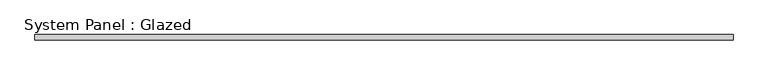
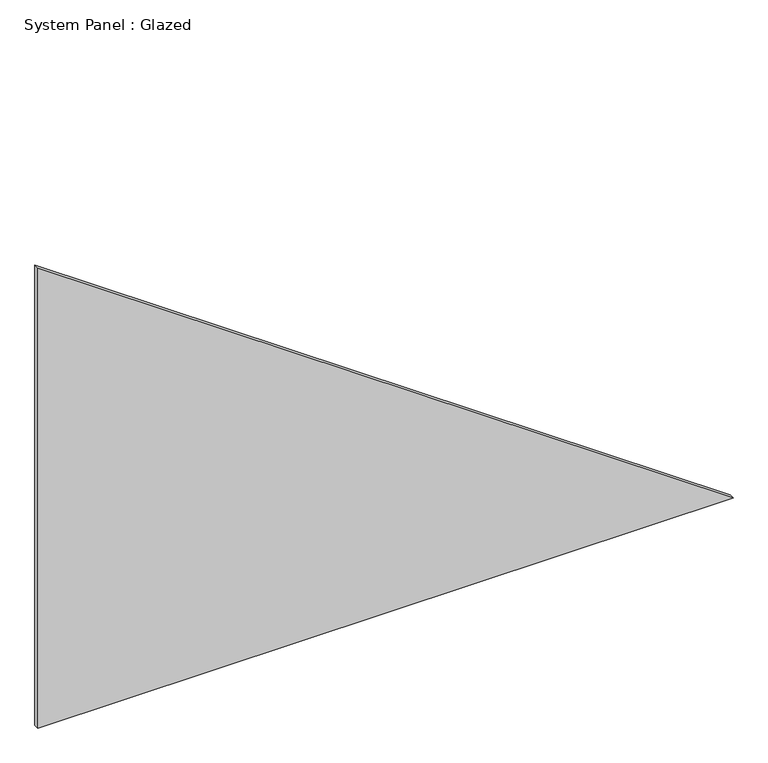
"""IFC4 building model written with IfcOpenShell, lengths in millimetres: plate geometry, System Panel : Glazed."""

from ifc_helpers import new_model, si_unit, frame, origin, place, context, project, spatial, polyline, outline, extrude, source, transform, mapped, element, save


def system_panel_glazed_0cbcd161(model_context):
    return source(origin(), model_context, "Body", "SweptSolid", [
        extrude(outline(polyline([(0.0, -683.7076466), (0.0, 683.7076466), (957.4744961, -683.7076466), (0.0, -683.7076466)])), frame((0.0, -5.0, 0.0), z_axis=(0.0, 1.0, 0.0), x_axis=(0.0, 0.0, 1.0)), (0.0, 0.0, 1.0), 10.0),
    ])


if __name__ == "__main__":
    model = new_model("IFC4")
    model_context = context("Model", 3, world=origin())
    ifc_project = project(units=[si_unit("LENGTHUNIT", "METRE", prefix="MILLI")], contexts=[model_context])
    site = spatial("IfcSite", under=ifc_project)
    building = spatial("IfcBuilding", under=site)
    placement = place(None, origin())
    system_panel_glazed_shape = system_panel_glazed_0cbcd161(model_context)
    element("IfcPlate", 1, ObjectType="System Panel : Glazed", at=placement, inside=building, context=model_context, shape_type="MappedRepresentation", body=[
        mapped(system_panel_glazed_shape, transform((0.0, 0.0, 0.0), x_axis=(1.0, 0.0, 0.0), y_axis=(0.0, 1.0, 0.0), z_axis=(0.0, 0.0, 1.0))),
    ])
    save(model, "model.ifc")
